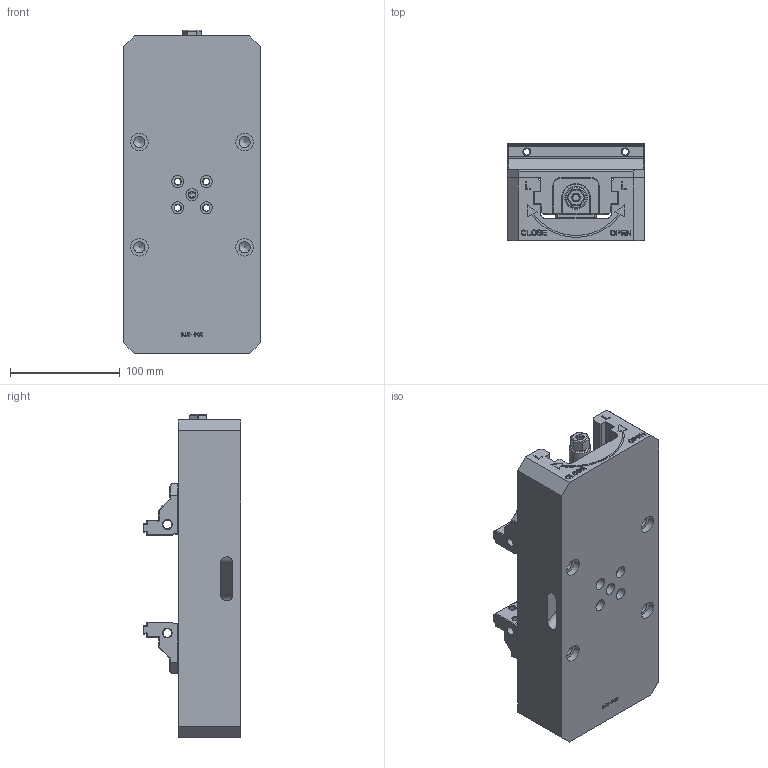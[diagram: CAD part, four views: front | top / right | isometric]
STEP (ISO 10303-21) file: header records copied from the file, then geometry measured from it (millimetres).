
FILE_DESCRIPTION(/* description */ (''),/* implementation_level */ '2;1');
FILE_NAME(/* name */ '',/* time_stamp */ '2023-07-31T13:29:58+08:00',/* author */ (''),/* organization */ (''),/* preprocessor_version */ 'ST-DEVELOPER v11',/* originating_system */ 'SIEMENS PLM Software NX 7.0',/* authorisation */ '');
FILE_SCHEMA (('CONFIG_CONTROL_DESIGN'));
Products named in the file (1): Admi8458jpxk
Bounding box: 125 x 89 x 295 mm (x, y, z)
Volume: 1704523.2 mm3; surface area: 246279.8 mm2
Topology: 5 solids, 5 shells, 1601 faces, 4388 edges, 2842 vertices
Faces by surface type: plane 974, cylinder 470, cone 82, extrusion 60, bspline 12, torus 3
Full cylindrical faces by diameter (mm): 6 x19, 6.5 x5, 8 x4, 10 x4, 11 x5, 16.005 x4, 17 x2, 18 x2, 20 x2, 24 x2, 24.5 x1
Entity records: 56989 total; most frequent: CARTESIAN_POINT 17585, ORIENTED_EDGE 8482, DIRECTION 7516, EDGE_CURVE 4241, VERTEX_POINT 2801, VECTOR 2778, LINE 2718, AXIS2_PLACEMENT_3D 2369
